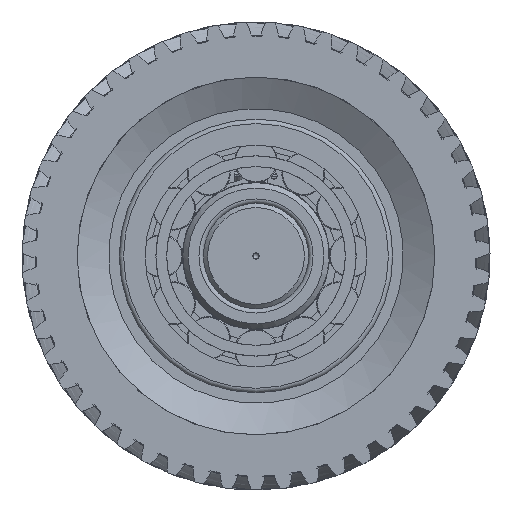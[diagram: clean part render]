
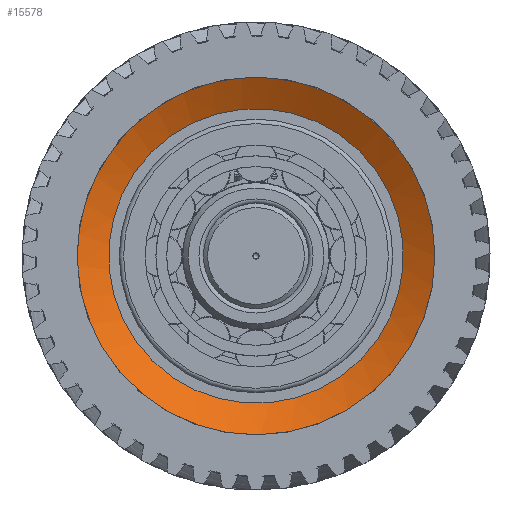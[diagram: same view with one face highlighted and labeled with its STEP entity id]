
A CAD part, left-side view. The second image highlights one B-rep face of the part: STEP entity #15578.
In plain terms, the highlighted conical face has half-angle 60 degrees and reference radius 71.5 mm.
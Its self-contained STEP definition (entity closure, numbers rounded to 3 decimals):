
#1015=CONICAL_SURFACE('',#17349,71.5,1.047);
#1722=FACE_OUTER_BOUND('',#2725,.T.);
#2725=EDGE_LOOP('',(#12756,#12757,#12758,#12759,#12760));
#3859=CIRCLE('',#17350,70.);
#3860=CIRCLE('',#17351,85.);
#3861=CIRCLE('',#17352,85.);
#4803=LINE('',#72469,#5163);
#5163=VECTOR('',#20924,71.5);
#6564=VERTEX_POINT('',#72466);
#6565=VERTEX_POINT('',#72468);
#6566=VERTEX_POINT('',#72470);
#8736=EDGE_CURVE('',#6564,#6564,#3859,.T.);
#8737=EDGE_CURVE('',#6564,#6565,#4803,.T.);
#8738=EDGE_CURVE('',#6566,#6565,#3860,.T.);
#8739=EDGE_CURVE('',#6565,#6566,#3861,.T.);
#12756=ORIENTED_EDGE('',*,*,#8736,.F.);
#12757=ORIENTED_EDGE('',*,*,#8737,.T.);
#12758=ORIENTED_EDGE('',*,*,#8738,.F.);
#12759=ORIENTED_EDGE('',*,*,#8739,.F.);
#12760=ORIENTED_EDGE('',*,*,#8737,.F.);
#15578=ADVANCED_FACE('',(#1722),#1015,.F.);
#17349=AXIS2_PLACEMENT_3D('',#72465,#20920,#20921);
#17350=AXIS2_PLACEMENT_3D('',#72467,#20922,#20923);
#17351=AXIS2_PLACEMENT_3D('',#72471,#20925,#20926);
#17352=AXIS2_PLACEMENT_3D('',#72472,#20927,#20928);
#20920=DIRECTION('center_axis',(-1.,0.,0.));
#20921=DIRECTION('ref_axis',(0.,-0.581,-0.814));
#20922=DIRECTION('center_axis',(-1.,0.,0.));
#20923=DIRECTION('ref_axis',(0.,0.,-1.));
#20924=DIRECTION('',(-0.5,0.503,0.705));
#20925=DIRECTION('center_axis',(1.,0.,0.));
#20926=DIRECTION('ref_axis',(0.,0.,-1.));
#20927=DIRECTION('center_axis',(1.,0.,0.));
#20928=DIRECTION('ref_axis',(0.,0.,-1.));
#72465=CARTESIAN_POINT('Origin',(14.134,0.,0.));
#72466=CARTESIAN_POINT('',(15.,40.678,56.968));
#72467=CARTESIAN_POINT('Origin',(15.,0.,0.));
#72468=CARTESIAN_POINT('',(6.34,49.394,69.175));
#72469=CARTESIAN_POINT('',(14.134,41.549,58.189));
#72470=CARTESIAN_POINT('',(6.34,0.,85.));
#72471=CARTESIAN_POINT('Origin',(6.34,0.,
0.));
#72472=CARTESIAN_POINT('Origin',(6.34,0.,
0.));
